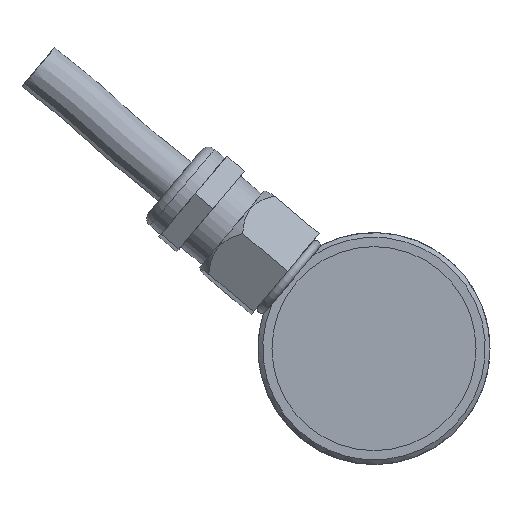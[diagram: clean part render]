
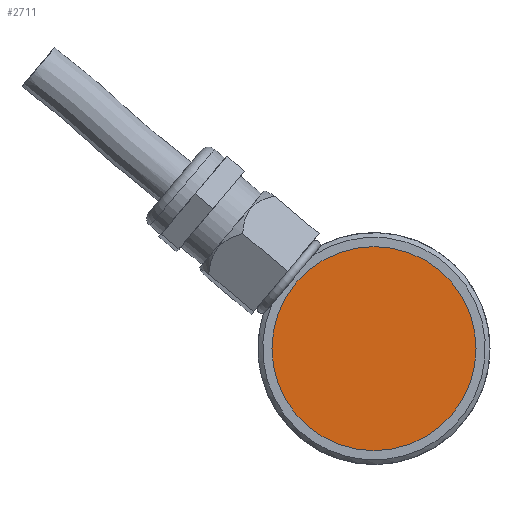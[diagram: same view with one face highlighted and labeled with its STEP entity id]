
A CAD part, left-side view. The second image highlights one B-rep face of the part: STEP entity #2711.
In plain terms, the highlighted planar face has unit normal (-1, 0, 0).
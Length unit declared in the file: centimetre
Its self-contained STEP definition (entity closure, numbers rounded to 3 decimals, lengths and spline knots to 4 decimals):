
#1025=PLANE('',#2865);
#1094=VERTEX_POINT('',#3567);
#1303=CIRCLE('',#2864,1.1);
#1390=EDGE_CURVE('',#1094,#1094,#1303,.T.);
#1746=ORIENTED_EDGE('',*,*,#1390,.T.);
#2385=EDGE_LOOP('',(#1746));
#2551=FACE_BOUND('',#2385,.T.);
#2711=ADVANCED_FACE('',(#2551),#1025,.T.);
#2864=AXIS2_PLACEMENT_3D('',#3566,#3081,#3082);
#2865=AXIS2_PLACEMENT_3D('',#3568,#3083,$);
#3081=DIRECTION('',(-1.,0.,0.));
#3082=DIRECTION('',(0.,0.,1.1));
#3083=DIRECTION('',(-1.,0.,0.));
#3566=CARTESIAN_POINT('',(0.1,0.,0.));
#3567=CARTESIAN_POINT('',(0.1,0.,1.1));
#3568=CARTESIAN_POINT('',(0.1,0.,0.));
